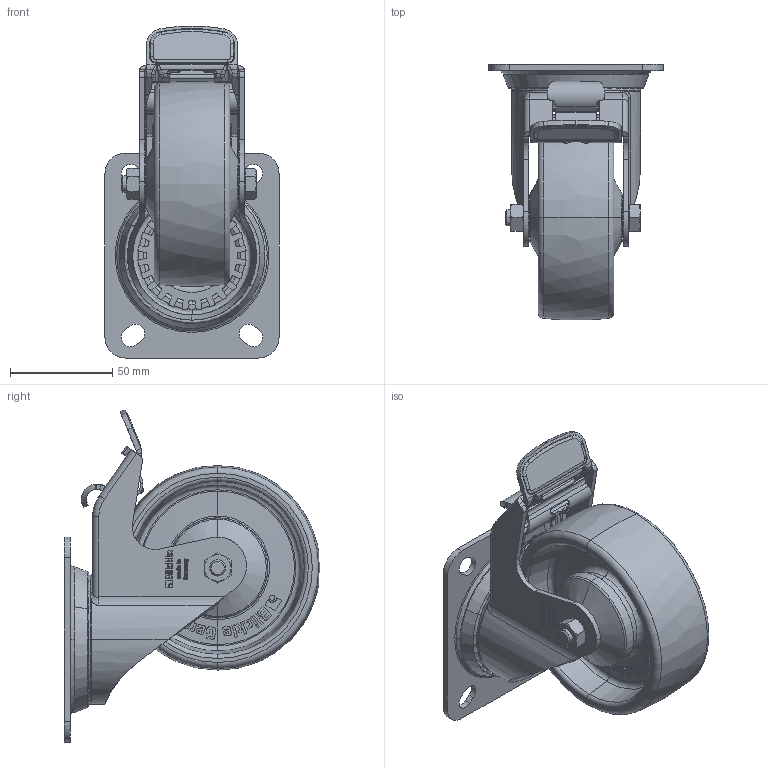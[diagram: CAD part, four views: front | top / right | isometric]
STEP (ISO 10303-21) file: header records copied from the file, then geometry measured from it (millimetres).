
FILE_DESCRIPTION (( 'STEP AP214' ), '1' );
FILE_NAME ('LX-PO_100KD-FI_755167-214.step', '2022-01-06T09:42:31', ( '' ), ( '' ), 'SwSTEP 2.0', 'SolidWorks 2018', '' );
FILE_SCHEMA (( 'AUTOMOTIVE_DESIGN' ));
Length unit declared in the file: millimetre
Products named in the file (5): GH-LX_100-200_GH-LX-100x45-01-FIH_8x46; LX-PO_100KD-FI_755167-214; PO_100_8KD_G16_3D; GH-LX-100x45-01-FIH_8x46_G16_3D; PO_50-125_3D_G16_PO_100_8KD_845600
Assembly tree (4 placements, depth 3):
  LX-PO_100KD-FI_755167-214
    GH-LX_100-200_GH-LX-100x45-01-FIH_8x46
      GH-LX-100x45-01-FIH_8x46_G16_3D
    PO_50-125_3D_G16_PO_100_8KD_845600
      PO_100_8KD_G16_3D
Bounding box: 85 x 124.91 x 162.04 mm (x, y, z)
Volume: 244161.3 mm3; surface area: 118692.2 mm2
Topology: 2 solids, 15 shells, 3668 faces, 9711 edges, 6266 vertices
Faces by surface type: plane 1561, bspline 1190, cylinder 582, torus 172, cone 163
Entity records: 170772 total; most frequent: CARTESIAN_POINT 56304, ORIENTED_EDGE 19398, DIRECTION 13265, EDGE_CURVE 9699, VERTEX_POINT 6266, VECTOR 4959, LINE 4959, AXIS2_PLACEMENT_3D 4153
